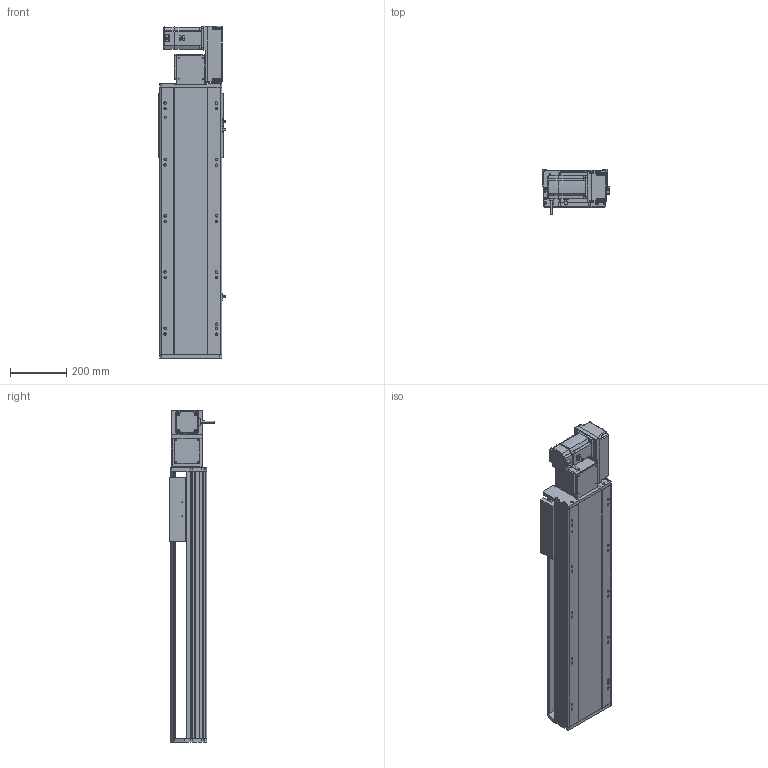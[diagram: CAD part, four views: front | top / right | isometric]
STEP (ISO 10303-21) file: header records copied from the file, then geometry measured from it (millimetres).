
FILE_DESCRIPTION (( 'STEP AP214' ), '1' );
FILE_NAME ('RTB22S-XX-600-R-M75-C4.STEP', '2025-12-12T07:16:44', ( '' ), ( '' ), 'SwSTEP 2.0', 'SolidWorks 2018', '' );
FILE_SCHEMA (( 'AUTOMOTIVE_DESIGN' ));
Length unit declared in the file: millimetre
Products named in the file (14): 750W萇儂^RTB22S-XX-XX-R-M75-C4; RTB22S-L-004賑釱^RTB22S-XX-XX-R-M75-C4; RTB22S-GY-018P^RTB22S-R-々湍釱蚾饜_RTB22S-XX-XX-R-M75-C4; RTB22S-R-々湍釱蚾饜^RTB22S-XX-XX-R-M75-C4; RTB22S-L-011菁釱^RTB22S-XX-XX-R-M75-C4; RTB22S-GY-008-M75--萇儂啣^RTB22S-R-々湍釱蚾饜_RTB22S-XX-XX-R-M75-C4; RTB22S-GY-005P^RTB22S-R-々湍釱蚾饜_RTB22S-XX-XX-R-M75-C4; RTB22S-GY-017P^RTB22S-R-々湍釱蚾饜_RTB22S-XX-XX-R-M75-C4; OMRON EE-SX672 传感器^RTB22S-XX-XX-R-M75-C4; RTB22S-GY-014--々湍釱^RTB22S-R-々湍釱蚾饜_RTB22S-XX-XX-R-M75-C4; RTB22S-GY-007奻裔^RTB22S-XX-XX-R-M75-C4; RTB22S-GY-001耜裔^RTB22S-XX-XX-R-M75-C4; RTB22S-XX-600-R-M75-C4; RTH22-GY-013外置感应片^RTB22S-XX-XX-R-M75-C4
Assembly tree (16 placements, depth 3):
  RTB22S-XX-600-R-M75-C4
    RTB22S-L-011菁釱^RTB22S-XX-XX-R-M75-C4
    RTB22S-GY-001耜裔^RTB22S-XX-XX-R-M75-C4
    750W萇儂^RTB22S-XX-XX-R-M75-C4
    RTB22S-GY-007奻裔^RTB22S-XX-XX-R-M75-C4
    RTB22S-L-004賑釱^RTB22S-XX-XX-R-M75-C4
    RTH22-GY-013外置感应片^RTB22S-XX-XX-R-M75-C4
    OMRON EE-SX672 传感器^RTB22S-XX-XX-R-M75-C4  x3
    RTB22S-R-々湍釱蚾饜^RTB22S-XX-XX-R-M75-C4
      RTB22S-GY-014--々湍釱^RTB22S-R-々湍釱蚾饜_RTB22S-XX-XX-R-M75-C4
      RTB22S-GY-017P^RTB22S-R-々湍釱蚾饜_RTB22S-XX-XX-R-M75-C4  x2
      RTB22S-GY-005P^RTB22S-R-々湍釱蚾饜_RTB22S-XX-XX-R-M75-C4
      RTB22S-GY-008-M75--萇儂啣^RTB22S-R-々湍釱蚾饜_RTB22S-XX-XX-R-M75-C4
      RTB22S-GY-018P^RTB22S-R-々湍釱蚾饜_RTB22S-XX-XX-R-M75-C4
Bounding box: 238.5 x 162.7 x 1179 mm (x, y, z)
Volume: 16633180 mm3; surface area: 1749088.7 mm2
Topology: 15 solids, 15 shells, 1929 faces, 5236 edges, 3362 vertices
Faces by surface type: plane 909, cylinder 586, bspline 296, cone 126, sphere 8, torus 4
Entity records: 50794 total; most frequent: CARTESIAN_POINT 14728, ORIENTED_EDGE 7284, DIRECTION 6956, EDGE_CURVE 3642, AXIS2_PLACEMENT_3D 2434, VERTEX_POINT 2366, VECTOR 2088, LINE 2088
